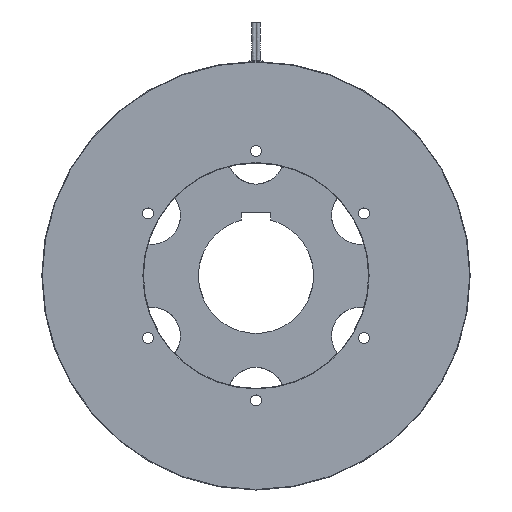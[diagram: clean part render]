
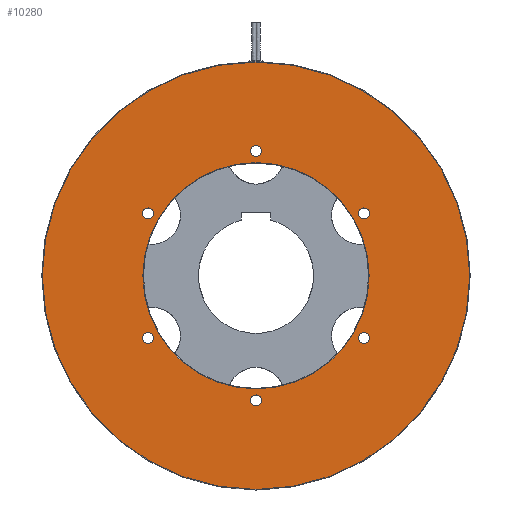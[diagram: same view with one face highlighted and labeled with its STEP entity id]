
A CAD part, left-side view. The second image highlights one B-rep face of the part: STEP entity #10280.
In plain terms, the highlighted planar face has unit normal (-1, 0, 0).
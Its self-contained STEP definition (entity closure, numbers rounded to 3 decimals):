
#858=FACE_BOUND('',#2151,.T.);
#859=FACE_BOUND('',#2152,.T.);
#860=FACE_BOUND('',#2153,.T.);
#861=FACE_BOUND('',#2154,.T.);
#862=FACE_BOUND('',#2155,.T.);
#863=FACE_BOUND('',#2156,.T.);
#864=FACE_BOUND('',#2157,.T.);
#1038=PLANE('',#11841);
#1526=FACE_OUTER_BOUND('',#2150,.T.);
#2150=EDGE_LOOP('',(#9572,#9573,#9574));
#2151=EDGE_LOOP('',(#9575,#9576));
#2152=EDGE_LOOP('',(#9577,#9578));
#2153=EDGE_LOOP('',(#9579,#9580));
#2154=EDGE_LOOP('',(#9581,#9582));
#2155=EDGE_LOOP('',(#9583,#9584));
#2156=EDGE_LOOP('',(#9585,#9586));
#2157=EDGE_LOOP('',(#9587));
#3621=CIRCLE('',#11235,204.);
#3622=CIRCLE('',#11236,204.);
#4050=CIRCLE('',#11842,204.);
#4051=CIRCLE('',#11843,5.25);
#4052=CIRCLE('',#11844,5.25);
#4053=CIRCLE('',#11845,5.25);
#4054=CIRCLE('',#11846,5.25);
#4055=CIRCLE('',#11847,5.25);
#4056=CIRCLE('',#11848,5.25);
#4057=CIRCLE('',#11849,5.25);
#4058=CIRCLE('',#11850,5.25);
#4059=CIRCLE('',#11851,5.25);
#4060=CIRCLE('',#11852,5.25);
#4061=CIRCLE('',#11853,5.25);
#4062=CIRCLE('',#11854,5.25);
#4063=CIRCLE('',#11855,108.);
#4723=VERTEX_POINT('',#17617);
#4724=VERTEX_POINT('',#17619);
#4725=VERTEX_POINT('',#17621);
#5087=VERTEX_POINT('',#18880);
#5088=VERTEX_POINT('',#18881);
#5089=VERTEX_POINT('',#18884);
#5090=VERTEX_POINT('',#18885);
#5091=VERTEX_POINT('',#18888);
#5092=VERTEX_POINT('',#18889);
#5093=VERTEX_POINT('',#18892);
#5094=VERTEX_POINT('',#18893);
#5095=VERTEX_POINT('',#18896);
#5096=VERTEX_POINT('',#18897);
#5097=VERTEX_POINT('',#18900);
#5098=VERTEX_POINT('',#18901);
#5099=VERTEX_POINT('',#18904);
#6042=EDGE_CURVE('',#4724,#4723,#3621,.T.);
#6043=EDGE_CURVE('',#4725,#4724,#3622,.T.);
#6617=EDGE_CURVE('',#4723,#4725,#4050,.T.);
#6618=EDGE_CURVE('',#5087,#5088,#4051,.T.);
#6619=EDGE_CURVE('',#5088,#5087,#4052,.T.);
#6620=EDGE_CURVE('',#5089,#5090,#4053,.T.);
#6621=EDGE_CURVE('',#5090,#5089,#4054,.T.);
#6622=EDGE_CURVE('',#5091,#5092,#4055,.T.);
#6623=EDGE_CURVE('',#5092,#5091,#4056,.T.);
#6624=EDGE_CURVE('',#5093,#5094,#4057,.T.);
#6625=EDGE_CURVE('',#5094,#5093,#4058,.T.);
#6626=EDGE_CURVE('',#5095,#5096,#4059,.T.);
#6627=EDGE_CURVE('',#5096,#5095,#4060,.T.);
#6628=EDGE_CURVE('',#5097,#5098,#4061,.T.);
#6629=EDGE_CURVE('',#5098,#5097,#4062,.T.);
#6630=EDGE_CURVE('',#5099,#5099,#4063,.T.);
#9572=ORIENTED_EDGE('',*,*,#6042,.T.);
#9573=ORIENTED_EDGE('',*,*,#6617,.T.);
#9574=ORIENTED_EDGE('',*,*,#6043,.T.);
#9575=ORIENTED_EDGE('',*,*,#6618,.T.);
#9576=ORIENTED_EDGE('',*,*,#6619,.T.);
#9577=ORIENTED_EDGE('',*,*,#6620,.T.);
#9578=ORIENTED_EDGE('',*,*,#6621,.T.);
#9579=ORIENTED_EDGE('',*,*,#6622,.T.);
#9580=ORIENTED_EDGE('',*,*,#6623,.T.);
#9581=ORIENTED_EDGE('',*,*,#6624,.T.);
#9582=ORIENTED_EDGE('',*,*,#6625,.T.);
#9583=ORIENTED_EDGE('',*,*,#6626,.T.);
#9584=ORIENTED_EDGE('',*,*,#6627,.T.);
#9585=ORIENTED_EDGE('',*,*,#6628,.T.);
#9586=ORIENTED_EDGE('',*,*,#6629,.T.);
#9587=ORIENTED_EDGE('',*,*,#6630,.F.);
#10280=ADVANCED_FACE('',(#1526,#858,#859,#860,#861,#862,#863,#864),#1038,
 .T.);
#11235=AXIS2_PLACEMENT_3D('',#17620,#13979,#13980);
#11236=AXIS2_PLACEMENT_3D('',#17622,#13981,#13982);
#11841=AXIS2_PLACEMENT_3D('',#18878,#15331,#15332);
#11842=AXIS2_PLACEMENT_3D('',#18879,#15333,#15334);
#11843=AXIS2_PLACEMENT_3D('',#18882,#15335,#15336);
#11844=AXIS2_PLACEMENT_3D('',#18883,#15337,#15338);
#11845=AXIS2_PLACEMENT_3D('',#18886,#15339,#15340);
#11846=AXIS2_PLACEMENT_3D('',#18887,#15341,#15342);
#11847=AXIS2_PLACEMENT_3D('',#18890,#15343,#15344);
#11848=AXIS2_PLACEMENT_3D('',#18891,#15345,#15346);
#11849=AXIS2_PLACEMENT_3D('',#18894,#15347,#15348);
#11850=AXIS2_PLACEMENT_3D('',#18895,#15349,#15350);
#11851=AXIS2_PLACEMENT_3D('',#18898,#15351,#15352);
#11852=AXIS2_PLACEMENT_3D('',#18899,#15353,#15354);
#11853=AXIS2_PLACEMENT_3D('',#18902,#15355,#15356);
#11854=AXIS2_PLACEMENT_3D('',#18903,#15357,#15358);
#11855=AXIS2_PLACEMENT_3D('',#18905,#15359,#15360);
#13979=DIRECTION('center_axis',(-1.,0.,0.));
#13980=DIRECTION('ref_axis',(0.,1.,0.));
#13981=DIRECTION('center_axis',(-1.,0.,0.));
#13982=DIRECTION('ref_axis',(0.,1.,0.));
#15331=DIRECTION('center_axis',(-1.,0.,0.));
#15332=DIRECTION('ref_axis',(0.,0.,
1.));
#15333=DIRECTION('center_axis',(-1.,0.,0.));
#15334=DIRECTION('ref_axis',(0.,1.,0.));
#15335=DIRECTION('center_axis',(1.,0.,0.));
#15336=DIRECTION('ref_axis',(0.,1.,0.));
#15337=DIRECTION('center_axis',(1.,0.,0.));
#15338=DIRECTION('ref_axis',(0.,1.,0.));
#15339=DIRECTION('center_axis',(1.,0.,0.));
#15340=DIRECTION('ref_axis',(0.,1.,0.));
#15341=DIRECTION('center_axis',(1.,0.,0.));
#15342=DIRECTION('ref_axis',(0.,1.,0.));
#15343=DIRECTION('center_axis',(1.,0.,0.));
#15344=DIRECTION('ref_axis',(0.,1.,0.));
#15345=DIRECTION('center_axis',(1.,0.,0.));
#15346=DIRECTION('ref_axis',(0.,1.,0.));
#15347=DIRECTION('center_axis',(1.,0.,0.));
#15348=DIRECTION('ref_axis',(0.,1.,0.));
#15349=DIRECTION('center_axis',(1.,0.,0.));
#15350=DIRECTION('ref_axis',(0.,1.,0.));
#15351=DIRECTION('center_axis',(1.,0.,0.));
#15352=DIRECTION('ref_axis',(0.,1.,0.));
#15353=DIRECTION('center_axis',(1.,0.,0.));
#15354=DIRECTION('ref_axis',(0.,1.,0.));
#15355=DIRECTION('center_axis',(1.,0.,0.));
#15356=DIRECTION('ref_axis',(0.,1.,0.));
#15357=DIRECTION('center_axis',(1.,0.,0.));
#15358=DIRECTION('ref_axis',(0.,1.,0.));
#15359=DIRECTION('center_axis',(-1.,0.,0.));
#15360=DIRECTION('ref_axis',(0.,-1.,0.));
#17617=CARTESIAN_POINT('',(-25.65,-204.,0.));
#17619=CARTESIAN_POINT('',(-25.65,204.,0.));
#17620=CARTESIAN_POINT('Origin',(-25.65,0.,
0.));
#17621=CARTESIAN_POINT('',(-25.65,0.,204.));
#17622=CARTESIAN_POINT('Origin',(-25.65,0.,
0.));
#18878=CARTESIAN_POINT('Origin',(-25.65,155.75,0.));
#18879=CARTESIAN_POINT('Origin',(-25.65,0.,
0.));
#18880=CARTESIAN_POINT('',(-25.65,-97.807,-59.5));
#18881=CARTESIAN_POINT('',(-25.65,-108.307,-59.5));
#18882=CARTESIAN_POINT('Origin',(-25.65,-103.057,-59.5));
#18883=CARTESIAN_POINT('Origin',(-25.65,-103.057,-59.5));
#18884=CARTESIAN_POINT('',(-25.65,108.307,-59.5));
#18885=CARTESIAN_POINT('',(-25.65,97.807,-59.5));
#18886=CARTESIAN_POINT('Origin',(-25.65,103.057,-59.5));
#18887=CARTESIAN_POINT('Origin',(-25.65,103.057,-59.5));
#18888=CARTESIAN_POINT('',(-25.65,5.25,119.));
#18889=CARTESIAN_POINT('',(-25.65,-5.25,119.));
#18890=CARTESIAN_POINT('Origin',(-25.65,0.,119.));
#18891=CARTESIAN_POINT('Origin',(-25.65,0.,119.));
#18892=CARTESIAN_POINT('',(-25.65,108.307,59.5));
#18893=CARTESIAN_POINT('',(-25.65,97.807,59.5));
#18894=CARTESIAN_POINT('Origin',(-25.65,103.057,59.5));
#18895=CARTESIAN_POINT('Origin',(-25.65,103.057,59.5));
#18896=CARTESIAN_POINT('',(-25.65,5.25,-119.));
#18897=CARTESIAN_POINT('',(-25.65,-5.25,-119.));
#18898=CARTESIAN_POINT('Origin',(-25.65,0.,-119.));
#18899=CARTESIAN_POINT('Origin',(-25.65,0.,-119.));
#18900=CARTESIAN_POINT('',(-25.65,-97.807,59.5));
#18901=CARTESIAN_POINT('',(-25.65,-108.307,59.5));
#18902=CARTESIAN_POINT('Origin',(-25.65,-103.057,59.5));
#18903=CARTESIAN_POINT('Origin',(-25.65,-103.057,59.5));
#18904=CARTESIAN_POINT('',(-25.65,108.,0.));
#18905=CARTESIAN_POINT('Origin',(-25.65,0.,0.));
